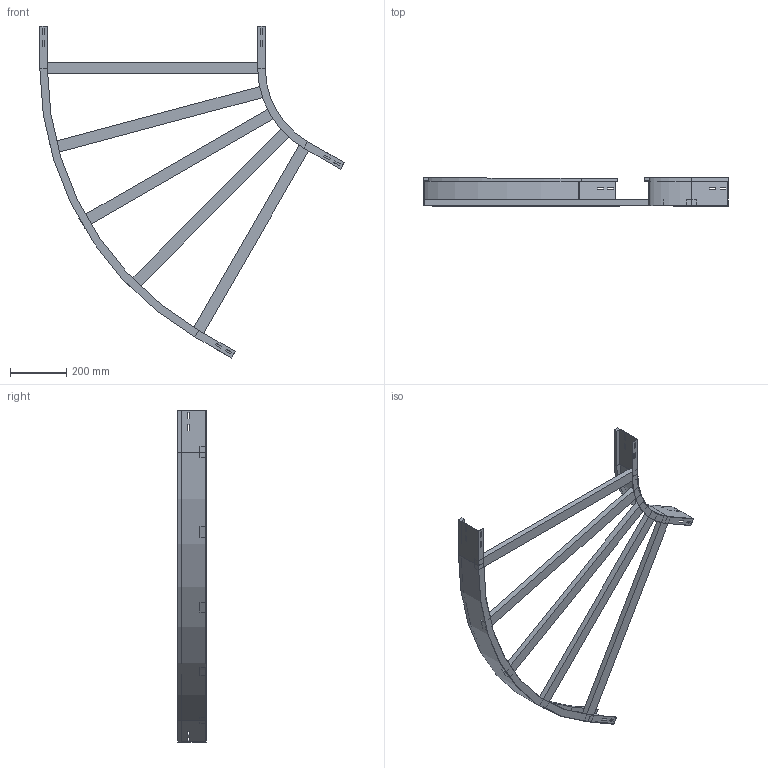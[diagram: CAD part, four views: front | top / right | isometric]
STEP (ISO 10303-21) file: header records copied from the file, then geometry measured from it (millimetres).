
FILE_DESCRIPTION (( 'STEP AP214' ), '1' );
FILE_NAME ('A2_13B3D800.step', '2025-02-21T15:18:00', ( '' ), ( '' ), 'SwSTEP 2.0', 'SolidWorks 2023', '' );
FILE_SCHEMA (( 'AUTOMOTIVE_DESIGN' ));
Length unit declared in the file: millimetre
Products named in the file (4): A2_13B3D800; A2_LONGH.INTERNO 60°_H100_R300; A2_LONGH.ESTERNO 60°_H100_R300+800; TRAVERSINO_800
Assembly tree (7 placements, depth 2):
  A2_13B3D800
    A2_LONGH.INTERNO 60°_H100_R300
    A2_LONGH.ESTERNO 60°_H100_R300+800
    TRAVERSINO_800  x5
Bounding box: 1079.9 x 100 x 1177.63 mm (x, y, z)
Volume: 4132077.8 mm3; surface area: 1079273.9 mm2
Topology: 7 solids, 7 shells, 146 faces, 364 edges, 232 vertices
Faces by surface type: plane 138, cylinder 8
Entity records: 3837 total; most frequent: CARTESIAN_POINT 648, ORIENTED_EDGE 632, DIRECTION 596, EDGE_CURVE 316, VECTOR 300, LINE 300, VERTEX_POINT 200, EDGE_LOOP 154
